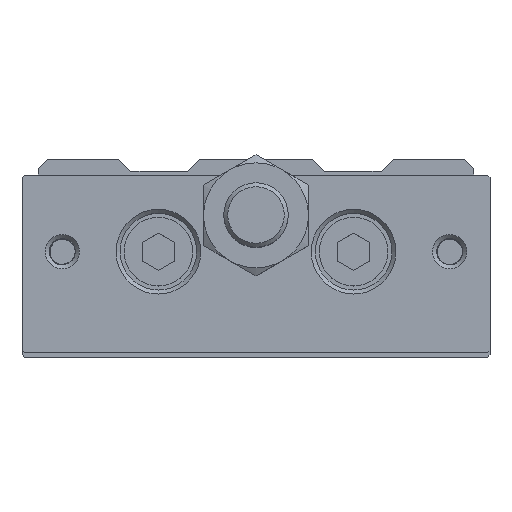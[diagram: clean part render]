
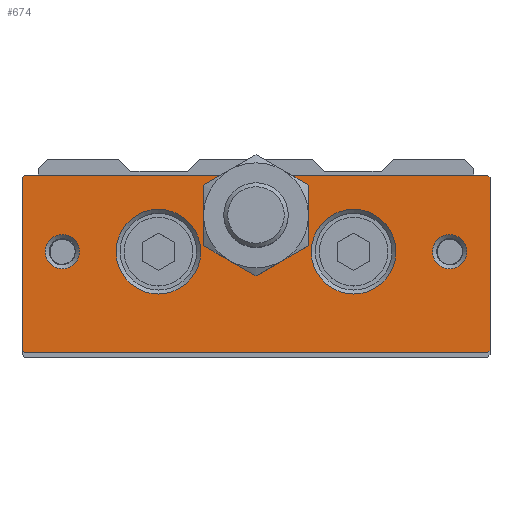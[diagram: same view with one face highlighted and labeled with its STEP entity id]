
A CAD part, top view. The second image highlights one B-rep face of the part: STEP entity #674.
In plain terms, the highlighted planar face has unit normal (0, 0, 1).
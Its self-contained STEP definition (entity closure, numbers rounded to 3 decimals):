
#455=CARTESIAN_POINT('',(-28.7,-13.,193.5));
#456=VERTEX_POINT('',#455);
#463=CARTESIAN_POINT('',(-29.,-12.7,193.5));
#464=VERTEX_POINT('',#463);
#465=CARTESIAN_POINT('',(-28.7,-13.,193.5));
#466=DIRECTION('',(-0.707,0.707,0.0));
#467=VECTOR('',#466,0.424);
#468=LINE('',#465,#467);
#469=EDGE_CURVE('',#456,#464,#468,.T.);
#486=CARTESIAN_POINT('',(-29.,8.7,193.5));
#487=VERTEX_POINT('',#486);
#488=CARTESIAN_POINT('',(-29.,8.7,193.5));
#489=DIRECTION('',(0.0,-1.0,0.0));
#490=VECTOR('',#489,21.4);
#491=LINE('',#488,#490);
#492=EDGE_CURVE('',#487,#464,#491,.T.);
#522=CARTESIAN_POINT('',(0.0,-13.,193.5));
#523=DIRECTION('',(0.0,0.0,1.0));
#524=DIRECTION('',(1.0,0.0,0.0));
#525=AXIS2_PLACEMENT_3D('',#522,#523,#524);
#526=PLANE('',#525);
#527=ORIENTED_EDGE('',*,*,#469,.F.);
#528=CARTESIAN_POINT('',(28.7,-13.,193.5));
#529=VERTEX_POINT('',#528);
#530=CARTESIAN_POINT('',(-28.7,-13.,193.5));
#531=DIRECTION('',(1.0,0.0,0.0));
#532=VECTOR('',#531,57.4);
#533=LINE('',#530,#532);
#534=EDGE_CURVE('',#456,#529,#533,.T.);
#535=ORIENTED_EDGE('',*,*,#534,.T.);
#536=CARTESIAN_POINT('',(29.,-12.7,193.5));
#537=VERTEX_POINT('',#536);
#538=CARTESIAN_POINT('',(29.,-12.7,193.5));
#539=DIRECTION('',(-0.707,-0.707,0.0));
#540=VECTOR('',#539,0.424);
#541=LINE('',#538,#540);
#542=EDGE_CURVE('',#537,#529,#541,.T.);
#543=ORIENTED_EDGE('',*,*,#542,.F.);
#544=CARTESIAN_POINT('',(29.,8.7,193.5));
#545=VERTEX_POINT('',#544);
#546=CARTESIAN_POINT('',(29.,-12.7,193.5));
#547=DIRECTION('',(0.0,1.0,0.0));
#548=VECTOR('',#547,21.4);
#549=LINE('',#546,#548);
#550=EDGE_CURVE('',#537,#545,#549,.T.);
#551=ORIENTED_EDGE('',*,*,#550,.T.);
#552=CARTESIAN_POINT('',(28.7,9.,193.5));
#553=VERTEX_POINT('',#552);
#554=CARTESIAN_POINT('',(28.7,9.,193.5));
#555=DIRECTION('',(0.707,-0.707,0.0));
#556=VECTOR('',#555,0.424);
#557=LINE('',#554,#556);
#558=EDGE_CURVE('',#553,#545,#557,.T.);
#559=ORIENTED_EDGE('',*,*,#558,.F.);
#560=CARTESIAN_POINT('',(4.153,9.,193.5));
#561=VERTEX_POINT('',#560);
#562=CARTESIAN_POINT('',(28.7,9.,193.5));
#563=DIRECTION('',(-1.0,0.0,0.0));
#564=VECTOR('',#563,24.547);
#565=LINE('',#562,#564);
#566=EDGE_CURVE('',#553,#561,#565,.T.);
#567=ORIENTED_EDGE('',*,*,#566,.T.);
#568=CARTESIAN_POINT('',(6.5,4.,193.5));
#569=VERTEX_POINT('',#568);
#570=CARTESIAN_POINT('',(0.0,4.,193.5));
#571=DIRECTION('',(0.0,0.0,1.0));
#572=DIRECTION('',(0.0,1.0,0.0));
#573=AXIS2_PLACEMENT_3D('',#570,#571,#572);
#574=CIRCLE('',#573,6.5);
#575=EDGE_CURVE('',#569,#561,#574,.T.);
#576=ORIENTED_EDGE('',*,*,#575,.F.);
#577=CARTESIAN_POINT('',(3.25,-1.629,193.5));
#578=VERTEX_POINT('',#577);
#579=CARTESIAN_POINT('',(0.0,4.,193.5));
#580=DIRECTION('',(0.0,0.0,1.0));
#581=DIRECTION('',(0.0,1.0,0.0));
#582=AXIS2_PLACEMENT_3D('',#579,#580,#581);
#583=CIRCLE('',#582,6.5);
#584=EDGE_CURVE('',#578,#569,#583,.T.);
#585=ORIENTED_EDGE('',*,*,#584,.F.);
#586=CARTESIAN_POINT('',(-3.25,-1.629,193.5));
#587=VERTEX_POINT('',#586);
#588=CARTESIAN_POINT('',(0.0,4.,193.5));
#589=DIRECTION('',(0.0,0.0,1.0));
#590=DIRECTION('',(0.0,1.0,0.0));
#591=AXIS2_PLACEMENT_3D('',#588,#589,#590);
#592=CIRCLE('',#591,6.5);
#593=EDGE_CURVE('',#587,#578,#592,.T.);
#594=ORIENTED_EDGE('',*,*,#593,.F.);
#595=CARTESIAN_POINT('',(-6.5,4.,193.5));
#596=VERTEX_POINT('',#595);
#597=CARTESIAN_POINT('',(0.0,4.,193.5));
#598=DIRECTION('',(0.0,0.0,1.0));
#599=DIRECTION('',(0.0,1.0,0.0));
#600=AXIS2_PLACEMENT_3D('',#597,#598,#599);
#601=CIRCLE('',#600,6.5);
#602=EDGE_CURVE('',#596,#587,#601,.T.);
#603=ORIENTED_EDGE('',*,*,#602,.F.);
#604=CARTESIAN_POINT('',(-4.153,9.,193.5));
#605=VERTEX_POINT('',#604);
#606=CARTESIAN_POINT('',(0.0,4.,193.5));
#607=DIRECTION('',(0.0,0.0,1.0));
#608=DIRECTION('',(0.0,1.0,0.0));
#609=AXIS2_PLACEMENT_3D('',#606,#607,#608);
#610=CIRCLE('',#609,6.5);
#611=EDGE_CURVE('',#605,#596,#610,.T.);
#612=ORIENTED_EDGE('',*,*,#611,.F.);
#613=CARTESIAN_POINT('',(-28.7,9.,193.5));
#614=VERTEX_POINT('',#613);
#615=CARTESIAN_POINT('',(-4.153,9.,193.5));
#616=DIRECTION('',(-1.0,0.0,0.0));
#617=VECTOR('',#616,24.547);
#618=LINE('',#615,#617);
#619=EDGE_CURVE('',#605,#614,#618,.T.);
#620=ORIENTED_EDGE('',*,*,#619,.T.);
#621=CARTESIAN_POINT('',(-29.,8.7,193.5));
#622=DIRECTION('',(0.707,0.707,0.0));
#623=VECTOR('',#622,0.424);
#624=LINE('',#621,#623);
#625=EDGE_CURVE('',#487,#614,#624,.T.);
#626=ORIENTED_EDGE('',*,*,#625,.F.);
#627=ORIENTED_EDGE('',*,*,#492,.T.);
#628=EDGE_LOOP('',(#527,#535,#543,#551,#559,#567,#576,#585,#594,#603,#612,#620,#626,#627));
#629=FACE_OUTER_BOUND('',#628,.T.);
#630=CARTESIAN_POINT('',(-21.879,-0.5,193.5));
#631=VERTEX_POINT('',#630);
#632=CARTESIAN_POINT('',(-24.,-0.5,193.5));
#633=DIRECTION('',(0.0,0.0,1.0));
#634=DIRECTION('',(-1.0,0.0,0.0));
#635=AXIS2_PLACEMENT_3D('',#632,#633,#634);
#636=CIRCLE('',#635,2.121);
#637=EDGE_CURVE('',#631,#631,#636,.T.);
#638=ORIENTED_EDGE('',*,*,#637,.F.);
#639=EDGE_LOOP('',(#638));
#640=FACE_BOUND('',#639,.T.);
#641=CARTESIAN_POINT('',(26.121,-0.5,193.5));
#642=VERTEX_POINT('',#641);
#643=CARTESIAN_POINT('',(24.,-0.5,193.5));
#644=DIRECTION('',(0.0,0.0,1.0));
#645=DIRECTION('',(-1.0,0.0,0.0));
#646=AXIS2_PLACEMENT_3D('',#643,#644,#645);
#647=CIRCLE('',#646,2.121);
#648=EDGE_CURVE('',#642,#642,#647,.T.);
#649=ORIENTED_EDGE('',*,*,#648,.F.);
#650=EDGE_LOOP('',(#649));
#651=FACE_BOUND('',#650,.T.);
#652=CARTESIAN_POINT('',(-6.85,-0.5,193.5));
#653=VERTEX_POINT('',#652);
#654=CARTESIAN_POINT('',(-12.1,-0.5,193.5));
#655=DIRECTION('',(0.0,0.0,1.0));
#656=DIRECTION('',(-1.0,0.0,0.0));
#657=AXIS2_PLACEMENT_3D('',#654,#655,#656);
#658=CIRCLE('',#657,5.25);
#659=EDGE_CURVE('',#653,#653,#658,.T.);
#660=ORIENTED_EDGE('',*,*,#659,.F.);
#661=EDGE_LOOP('',(#660));
#662=FACE_BOUND('',#661,.T.);
#663=CARTESIAN_POINT('',(17.35,-0.5,193.5));
#664=VERTEX_POINT('',#663);
#665=CARTESIAN_POINT('',(12.1,-0.5,193.5));
#666=DIRECTION('',(0.0,0.0,1.0));
#667=DIRECTION('',(-1.0,0.0,0.0));
#668=AXIS2_PLACEMENT_3D('',#665,#666,#667);
#669=CIRCLE('',#668,5.25);
#670=EDGE_CURVE('',#664,#664,#669,.T.);
#671=ORIENTED_EDGE('',*,*,#670,.F.);
#672=EDGE_LOOP('',(#671));
#673=FACE_BOUND('',#672,.T.);
#674=ADVANCED_FACE('',(#629,#640,#651,#662,#673),#526,.T.);
